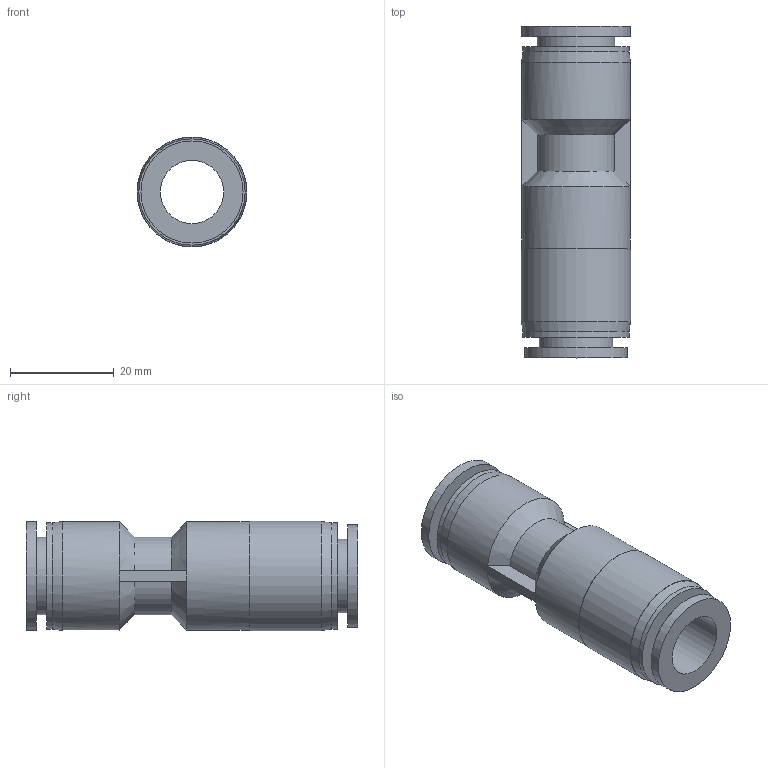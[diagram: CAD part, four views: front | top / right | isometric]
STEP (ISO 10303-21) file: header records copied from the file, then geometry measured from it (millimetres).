
FILE_DESCRIPTION(/* description */ (''),/* implementation_level */ '2;1');
FILE_NAME(/* name */ 'C:\Users\Paola\Desktop\Documenti Konfit\Disegni 3D\RF220012.stp',/* time_stamp */ '2016-06-17T14:45:26+02:00',/* author */ ('Paola'),/* organization */ (''),/* preprocessor_version */ 'ST-DEVELOPER v16.1',/* originating_system */ 'Autodesk Inventor 2016',/* authorisation */ '');
FILE_SCHEMA (('AUTOMOTIVE_DESIGN { 1 0 10303 214 3 1 1 }'));
Length unit declared in the file: millimetre
Products named in the file (1): RF220012
Bounding box: 21.2 x 64 x 21.2 mm (x, y, z)
Volume: 12311 mm3; surface area: 7728.3 mm2
Topology: 1 solids, 1 shells, 40 faces, 80 edges, 48 vertices
Faces by surface type: plane 22, cylinder 12, cone 6
Full cylindrical faces by diameter (mm): 12.2 x1, 14.2 x1, 15 x1, 19.7 x1, 20.5 x2, 21 x3, 21.2 x1
Entity records: 997 total; most frequent: DIRECTION 176, CARTESIAN_POINT 171, ORIENTED_EDGE 134, AXIS2_PLACEMENT_3D 76, EDGE_CURVE 67, EDGE_LOOP 60, VERTEX_POINT 47, FACE_OUTER_BOUND 40
